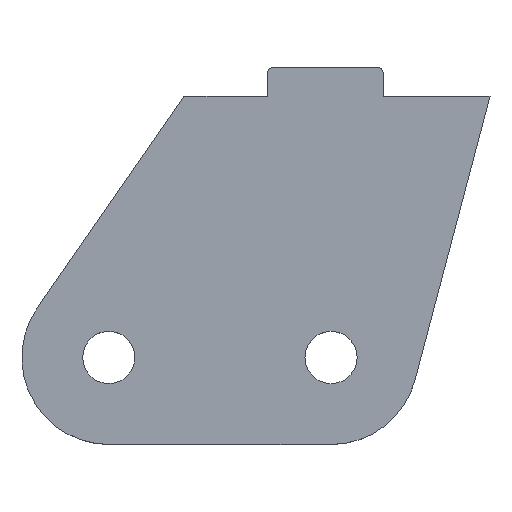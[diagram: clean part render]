
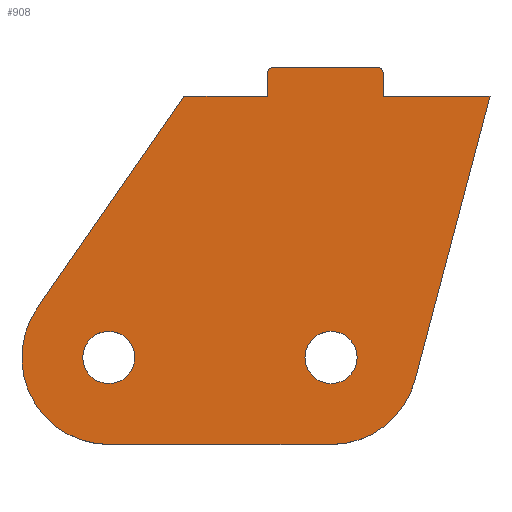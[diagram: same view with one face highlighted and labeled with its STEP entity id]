
A CAD part, top view. The second image highlights one B-rep face of the part: STEP entity #908.
In plain terms, the highlighted planar face has unit normal (0, 0, 1).
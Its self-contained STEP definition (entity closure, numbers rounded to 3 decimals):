
#423=CIRCLE('',#859,1.);
#425=CIRCLE('',#863,1.);
#427=CIRCLE('',#869,15.);
#429=CIRCLE('',#873,15.);
#432=CIRCLE('',#880,4.5);
#433=CIRCLE('',#882,4.5);
#504=ORIENTED_EDGE('',*,*,#607,.F.);
#505=ORIENTED_EDGE('',*,*,#639,.T.);
#506=ORIENTED_EDGE('',*,*,#637,.T.);
#507=ORIENTED_EDGE('',*,*,#634,.F.);
#508=ORIENTED_EDGE('',*,*,#631,.F.);
#509=ORIENTED_EDGE('',*,*,#628,.T.);
#510=ORIENTED_EDGE('',*,*,#625,.F.);
#511=ORIENTED_EDGE('',*,*,#622,.T.);
#512=ORIENTED_EDGE('',*,*,#619,.T.);
#513=ORIENTED_EDGE('',*,*,#616,.T.);
#514=ORIENTED_EDGE('',*,*,#613,.T.);
#515=ORIENTED_EDGE('',*,*,#610,.F.);
#516=ORIENTED_EDGE('',*,*,#642,.F.);
#517=ORIENTED_EDGE('',*,*,#643,.F.);
#523=VECTOR('',#693,1.);
#527=VECTOR('',#705,1.);
#531=VECTOR('',#717,1.);
#534=VECTOR('',#722,1.);
#537=VECTOR('',#727,1.);
#541=VECTOR('',#739,1.);
#545=VECTOR('',#751,1.);
#547=VECTOR('',#755,1.);
#551=LINE('',#780,#523);
#555=LINE('',#792,#527);
#559=LINE('',#804,#531);
#562=LINE('',#810,#534);
#565=LINE('',#816,#537);
#569=LINE('',#828,#541);
#573=LINE('',#840,#545);
#575=LINE('',#843,#547);
#577=VERTEX_POINT('',#774);
#579=VERTEX_POINT('',#778);
#581=VERTEX_POINT('',#783);
#583=VERTEX_POINT('',#789);
#585=VERTEX_POINT('',#795);
#587=VERTEX_POINT('',#801);
#589=VERTEX_POINT('',#807);
#591=VERTEX_POINT('',#813);
#593=VERTEX_POINT('',#819);
#595=VERTEX_POINT('',#825);
#597=VERTEX_POINT('',#831);
#599=VERTEX_POINT('',#837);
#602=VERTEX_POINT('',#850);
#603=VERTEX_POINT('',#853);
#607=EDGE_CURVE('',#579,#577,#551,.T.);
#610=EDGE_CURVE('',#577,#581,#423,.T.);
#613=EDGE_CURVE('',#583,#581,#555,.T.);
#616=EDGE_CURVE('',#585,#583,#425,.T.);
#619=EDGE_CURVE('',#587,#585,#559,.T.);
#622=EDGE_CURVE('',#589,#587,#562,.T.);
#625=EDGE_CURVE('',#589,#591,#565,.T.);
#628=EDGE_CURVE('',#593,#591,#427,.T.);
#631=EDGE_CURVE('',#593,#595,#569,.T.);
#634=EDGE_CURVE('',#595,#597,#429,.T.);
#637=EDGE_CURVE('',#599,#597,#573,.T.);
#639=EDGE_CURVE('',#579,#599,#575,.T.);
#642=EDGE_CURVE('',#602,#602,#432,.T.);
#643=EDGE_CURVE('',#603,#603,#433,.T.);
#661=EDGE_LOOP('',(#504,#505,#506,#507,#508,#509,#510,#511,#512,#513,#514,
#515));
#662=EDGE_LOOP('',(#516));
#663=EDGE_LOOP('',(#517));
#683=FACE_BOUND('',#661,.T.);
#684=FACE_BOUND('',#662,.T.);
#685=FACE_BOUND('',#663,.T.);
#693=DIRECTION('',(0.,4.,0.));
#699=DIRECTION('',(0.,0.,-1.));
#700=DIRECTION('',(0.,-1.,0.));
#705=DIRECTION('',(-18.,0.,0.));
#711=DIRECTION('',(0.,0.,1.));
#712=DIRECTION('',(0.,1.,0.));
#717=DIRECTION('',(0.,4.,0.));
#722=DIRECTION('',(-18.407,0.,0.));
#727=DIRECTION('',(-12.902,-48.832,0.));
#733=DIRECTION('',(0.,0.,1.));
#734=DIRECTION('',(0.,15.,0.));
#739=DIRECTION('',(-38.314,0.,0.));
#745=DIRECTION('',(0.,0.,-1.));
#746=DIRECTION('',(0.,-15.,0.));
#751=DIRECTION('',(-25.273,-36.454,0.));
#755=DIRECTION('',(-14.365,0.,0.));
#764=DIRECTION('',(0.,0.,1.));
#765=DIRECTION('',(0.,-4.5,0.));
#766=DIRECTION('',(0.,0.,1.));
#767=DIRECTION('',(0.,-1.,0.));
#768=DIRECTION('',(0.,0.,1.));
#769=DIRECTION('',(0.,-4.5,0.));
#774=CARTESIAN_POINT('',(5839.504,13790.36,8.));
#778=CARTESIAN_POINT('',(5839.504,13786.36,8.));
#780=CARTESIAN_POINT('',(5839.504,13786.36,8.));
#783=CARTESIAN_POINT('',(5840.504,13791.36,8.));
#786=CARTESIAN_POINT('',(5840.504,13790.36,8.));
#789=CARTESIAN_POINT('',(5858.504,13791.36,8.));
#792=CARTESIAN_POINT('',(5858.504,13791.36,8.));
#795=CARTESIAN_POINT('',(5859.504,13790.36,8.));
#798=CARTESIAN_POINT('',(5858.504,13790.36,8.));
#801=CARTESIAN_POINT('',(5859.504,13786.36,8.));
#804=CARTESIAN_POINT('',(5859.504,13786.36,8.));
#807=CARTESIAN_POINT('',(5877.911,13786.36,8.));
#810=CARTESIAN_POINT('',(5877.911,13786.36,8.));
#813=CARTESIAN_POINT('',(5865.009,13737.528,8.));
#816=CARTESIAN_POINT('',(5877.911,13786.36,8.));
#819=CARTESIAN_POINT('',(5850.507,13726.36,8.));
#822=CARTESIAN_POINT('',(5850.507,13741.36,8.));
#825=CARTESIAN_POINT('',(5812.193,13726.36,8.));
#828=CARTESIAN_POINT('',(5850.507,13726.36,8.));
#831=CARTESIAN_POINT('',(5799.865,13749.906,8.));
#834=CARTESIAN_POINT('',(5812.193,13741.36,8.));
#837=CARTESIAN_POINT('',(5825.138,13786.36,8.));
#840=CARTESIAN_POINT('',(5825.138,13786.36,8.));
#843=CARTESIAN_POINT('',(5839.504,13786.36,8.));
#850=CARTESIAN_POINT('',(5812.193,13736.86,8.));
#851=CARTESIAN_POINT('',(5812.193,13741.36,8.));
#852=CARTESIAN_POINT('',(0.,0.,8.));
#853=CARTESIAN_POINT('',(5850.507,13736.86,8.));
#854=CARTESIAN_POINT('',(5850.507,13741.36,8.));
#859=AXIS2_PLACEMENT_3D('',#786,#699,#700);
#863=AXIS2_PLACEMENT_3D('',#798,#711,#712);
#869=AXIS2_PLACEMENT_3D('',#822,#733,#734);
#873=AXIS2_PLACEMENT_3D('',#834,#745,#746);
#880=AXIS2_PLACEMENT_3D('',#851,#764,#765);
#881=AXIS2_PLACEMENT_3D('',#852,#766,#767);
#882=AXIS2_PLACEMENT_3D('',#854,#768,#769);
#893=PLANE('',#881);
#908=ADVANCED_FACE('',(#683,#684,#685),#893,.T.);
